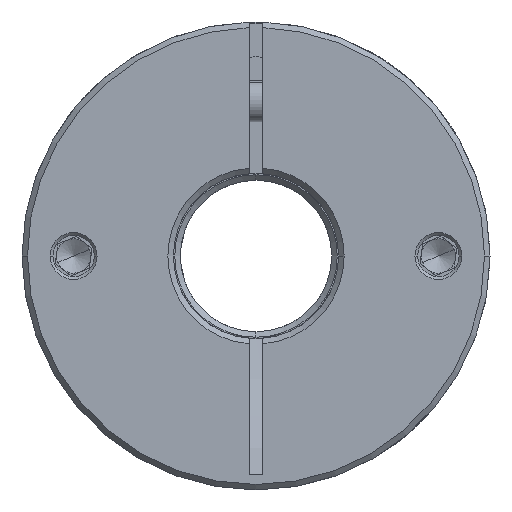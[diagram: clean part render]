
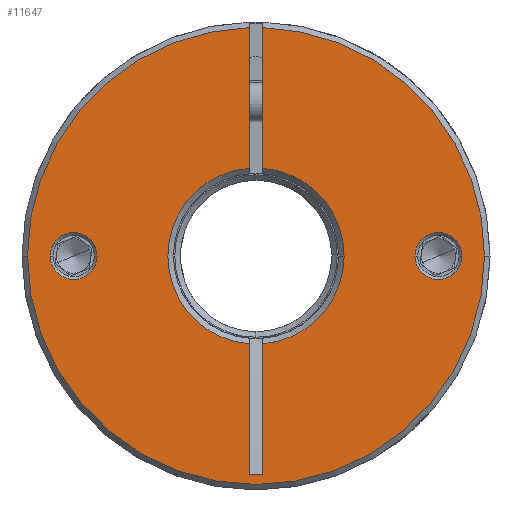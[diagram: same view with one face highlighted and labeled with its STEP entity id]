
A CAD part, front view. The second image highlights one B-rep face of the part: STEP entity #11647.
In plain terms, the highlighted planar face has unit normal (0, -1, 0).
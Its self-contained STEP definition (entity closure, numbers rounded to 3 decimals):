
#53 = CARTESIAN_POINT ( 'NONE',  ( -1.735, -47.045, 80.761 ) ) ;
#57 = LINE ( 'NONE', #12621, #9388 ) ;
#161 = DIRECTION ( 'NONE',  ( 1., 0., 0. ) ) ;
#203 = ORIENTED_EDGE ( 'NONE', *, *, #9129, .T. ) ;
#334 = CIRCLE ( 'NONE', #8691, 33.2 ) ;
#358 = FACE_OUTER_BOUND ( 'NONE', #1648, .T. ) ;
#576 = DIRECTION ( 'NONE',  ( 0., 0., -1. ) ) ;
#598 = AXIS2_PLACEMENT_3D ( 'NONE', #3572, #1592, #8666 ) ;
#612 = CIRCLE ( 'NONE', #12318, 12.8 ) ;
#616 = CARTESIAN_POINT ( 'NONE',  ( 10.065, -47.045, 68. ) ) ;
#645 = CARTESIAN_POINT ( 'NONE',  ( -2.735, -47.045, 68. ) ) ;
#675 = DIRECTION ( 'NONE',  ( 1., 0., 0. ) ) ;
#835 = EDGE_LOOP ( 'NONE', ( #7035, #203 ) ) ;
#865 = DIRECTION ( 'NONE',  ( 1., 0., 0. ) ) ;
#942 = VERTEX_POINT ( 'NONE', #5291 ) ;
#1165 = FACE_BOUND ( 'NONE', #835, .T. ) ;
#1178 = CARTESIAN_POINT ( 'NONE',  ( -3.735, -47.045, 68. ) ) ;
#1340 = EDGE_CURVE ( 'NONE', #9038, #1619, #3388, .T. ) ;
#1421 = ORIENTED_EDGE ( 'NONE', *, *, #11125, .T. ) ;
#1466 = DIRECTION ( 'NONE',  ( 0., 0., -1. ) ) ;
#1467 = EDGE_CURVE ( 'NONE', #4043, #9747, #9198, .T. ) ;
#1525 = CARTESIAN_POINT ( 'NONE',  ( -3.735, -47.045, 36.279 ) ) ;
#1543 = DIRECTION ( 'NONE',  ( 0., 1., 0. ) ) ;
#1592 = DIRECTION ( 'NONE',  ( 0., -1., 0. ) ) ;
#1619 = VERTEX_POINT ( 'NONE', #6955 ) ;
#1642 = VECTOR ( 'NONE', #9706, 1000. ) ;
#1648 = EDGE_LOOP ( 'NONE', ( #9676, #3791, #8401, #2143, #8872, #7193, #3141, #8069, #4151, #13017, #13081 ) ) ;
#1734 = CIRCLE ( 'NONE', #12186, 3.4 ) ;
#1774 = DIRECTION ( 'NONE',  ( 1., 0., 0. ) ) ;
#2072 = VECTOR ( 'NONE', #576, 1000. ) ;
#2085 = DIRECTION ( 'NONE',  ( 0., 0., -1. ) ) ;
#2127 = VERTEX_POINT ( 'NONE', #12161 ) ;
#2143 = ORIENTED_EDGE ( 'NONE', *, *, #8334, .T. ) ;
#2199 = DIRECTION ( 'NONE',  ( 0., 1., 0. ) ) ;
#2383 = EDGE_CURVE ( 'NONE', #5235, #10764, #57, .T. ) ;
#2550 = AXIS2_PLACEMENT_3D ( 'NONE', #8679, #9702, #3382 ) ;
#2579 = DIRECTION ( 'NONE',  ( 0., -1., 0. ) ) ;
#2613 = ORIENTED_EDGE ( 'NONE', *, *, #3800, .T. ) ;
#2631 = LINE ( 'NONE', #9177, #11298 ) ;
#2884 = VERTEX_POINT ( 'NONE', #3553 ) ;
#3141 = ORIENTED_EDGE ( 'NONE', *, *, #6676, .T. ) ;
#3382 = DIRECTION ( 'NONE',  ( 1., 0., 0. ) ) ;
#3383 = CARTESIAN_POINT ( 'NONE',  ( 20.365, -47.045, 68. ) ) ;
#3388 = LINE ( 'NONE', #1178, #2072 ) ;
#3436 = CARTESIAN_POINT ( 'NONE',  ( -29.235, -47.045, 68. ) ) ;
#3553 = CARTESIAN_POINT ( 'NONE',  ( -25.835, -47.045, 68. ) ) ;
#3572 = CARTESIAN_POINT ( 'NONE',  ( -2.735, -47.045, 68. ) ) ;
#3791 = ORIENTED_EDGE ( 'NONE', *, *, #1467, .T. ) ;
#3800 = EDGE_CURVE ( 'NONE', #2127, #10076, #1734, .T. ) ;
#3883 = VECTOR ( 'NONE', #13012, 1000. ) ;
#4043 = VERTEX_POINT ( 'NONE', #10893 ) ;
#4151 = ORIENTED_EDGE ( 'NONE', *, *, #12996, .T. ) ;
#4170 = VERTEX_POINT ( 'NONE', #12033 ) ;
#4435 = CARTESIAN_POINT ( 'NONE',  ( -1.735, -47.045, 101.185 ) ) ;
#4441 = AXIS2_PLACEMENT_3D ( 'NONE', #5984, #12041, #865 ) ;
#4500 = DIRECTION ( 'NONE',  ( 0., 1., 0. ) ) ;
#4704 = CARTESIAN_POINT ( 'NONE',  ( -2.735, -47.045, 68. ) ) ;
#4724 = AXIS2_PLACEMENT_3D ( 'NONE', #4704, #2579, #6690 ) ;
#4804 = VERTEX_POINT ( 'NONE', #8839 ) ;
#4861 = DIRECTION ( 'NONE',  ( 0., 1., 0. ) ) ;
#4862 = EDGE_CURVE ( 'NONE', #9038, #4804, #12933, .T. ) ;
#5235 = VERTEX_POINT ( 'NONE', #4435 ) ;
#5291 = CARTESIAN_POINT ( 'NONE',  ( -1.735, -47.045, 36.279 ) ) ;
#5650 = VERTEX_POINT ( 'NONE', #11476 ) ;
#5706 = CARTESIAN_POINT ( 'NONE',  ( -32.635, -47.045, 68. ) ) ;
#5847 = DIRECTION ( 'NONE',  ( 0., 1., 0. ) ) ;
#5984 = CARTESIAN_POINT ( 'NONE',  ( 23.765, -47.045, 68. ) ) ;
#5996 = CIRCLE ( 'NONE', #4441, 3.4 ) ;
#6345 = VERTEX_POINT ( 'NONE', #616 ) ;
#6448 = DIRECTION ( 'NONE',  ( 0., -1., 0. ) ) ;
#6676 = EDGE_CURVE ( 'NONE', #6345, #5650, #12727, .T. ) ;
#6690 = DIRECTION ( 'NONE',  ( 1., 0., 0. ) ) ;
#6726 = EDGE_LOOP ( 'NONE', ( #2613, #1421 ) ) ;
#6955 = CARTESIAN_POINT ( 'NONE',  ( -3.735, -47.045, 36.279 ) ) ;
#7035 = ORIENTED_EDGE ( 'NONE', *, *, #12609, .T. ) ;
#7153 = EDGE_CURVE ( 'NONE', #9747, #4170, #334, .T. ) ;
#7193 = ORIENTED_EDGE ( 'NONE', *, *, #8704, .T. ) ;
#7439 = DIRECTION ( 'NONE',  ( 1., 0., 0. ) ) ;
#7516 = CARTESIAN_POINT ( 'NONE',  ( 23.765, -47.045, 68. ) ) ;
#7679 = AXIS2_PLACEMENT_3D ( 'NONE', #8907, #1543, #675 ) ;
#7920 = LINE ( 'NONE', #8988, #3883 ) ;
#7923 = VERTEX_POINT ( 'NONE', #5706 ) ;
#8069 = ORIENTED_EDGE ( 'NONE', *, *, #12765, .T. ) ;
#8313 = AXIS2_PLACEMENT_3D ( 'NONE', #13044, #4861, #12050 ) ;
#8334 = EDGE_CURVE ( 'NONE', #4170, #5235, #12988, .T. ) ;
#8401 = ORIENTED_EDGE ( 'NONE', *, *, #7153, .T. ) ;
#8666 = DIRECTION ( 'NONE',  ( 1., 0., 0. ) ) ;
#8679 = CARTESIAN_POINT ( 'NONE',  ( -2.735, -47.045, 68. ) ) ;
#8691 = AXIS2_PLACEMENT_3D ( 'NONE', #10496, #6448, #161 ) ;
#8704 = EDGE_CURVE ( 'NONE', #10764, #6345, #612, .T. ) ;
#8813 = CIRCLE ( 'NONE', #7679, 3.4 ) ;
#8839 = CARTESIAN_POINT ( 'NONE',  ( -3.735, -47.045, 80.761 ) ) ;
#8872 = ORIENTED_EDGE ( 'NONE', *, *, #2383, .T. ) ;
#8907 = CARTESIAN_POINT ( 'NONE',  ( -29.235, -47.045, 68. ) ) ;
#8988 = CARTESIAN_POINT ( 'NONE',  ( -1.735, -47.045, 68. ) ) ;
#9038 = VERTEX_POINT ( 'NONE', #11405 ) ;
#9043 = CIRCLE ( 'NONE', #10209, 3.4 ) ;
#9129 = EDGE_CURVE ( 'NONE', #7923, #2884, #8813, .T. ) ;
#9177 = CARTESIAN_POINT ( 'NONE',  ( -3.735, -47.045, 68. ) ) ;
#9198 = CIRCLE ( 'NONE', #598, 33.2 ) ;
#9388 = VECTOR ( 'NONE', #1466, 1000. ) ;
#9676 = ORIENTED_EDGE ( 'NONE', *, *, #12346, .F. ) ;
#9702 = DIRECTION ( 'NONE',  ( 0., -1., 0. ) ) ;
#9706 = DIRECTION ( 'NONE',  ( -1., 0., 0. ) ) ;
#9747 = VERTEX_POINT ( 'NONE', #9999 ) ;
#9999 = CARTESIAN_POINT ( 'NONE',  ( -35.935, -47.045, 68. ) ) ;
#10076 = VERTEX_POINT ( 'NONE', #3383 ) ;
#10209 = AXIS2_PLACEMENT_3D ( 'NONE', #3436, #4500, #10610 ) ;
#10496 = CARTESIAN_POINT ( 'NONE',  ( -2.735, -47.045, 68. ) ) ;
#10508 = CARTESIAN_POINT ( 'NONE',  ( -2.735, -47.045, 68. ) ) ;
#10610 = DIRECTION ( 'NONE',  ( 1., 0., 0. ) ) ;
#10764 = VERTEX_POINT ( 'NONE', #53 ) ;
#10893 = CARTESIAN_POINT ( 'NONE',  ( -3.735, -47.045, 101.185 ) ) ;
#11125 = EDGE_CURVE ( 'NONE', #10076, #2127, #5996, .T. ) ;
#11298 = VECTOR ( 'NONE', #2085, 1000. ) ;
#11405 = CARTESIAN_POINT ( 'NONE',  ( -3.735, -47.045, 55.239 ) ) ;
#11476 = CARTESIAN_POINT ( 'NONE',  ( -1.735, -47.045, 55.239 ) ) ;
#11626 = FACE_BOUND ( 'NONE', #6726, .T. ) ;
#11647 = ADVANCED_FACE ( 'NONE', ( #11626, #1165, #358 ), #12577, .T. ) ;
#12033 = CARTESIAN_POINT ( 'NONE',  ( 30.465, -47.045, 68. ) ) ;
#12041 = DIRECTION ( 'NONE',  ( 0., 1., 0. ) ) ;
#12050 = DIRECTION ( 'NONE',  ( 1., 0., 0. ) ) ;
#12110 = AXIS2_PLACEMENT_3D ( 'NONE', #10508, #2199, #7439 ) ;
#12161 = CARTESIAN_POINT ( 'NONE',  ( 27.165, -47.045, 68. ) ) ;
#12186 = AXIS2_PLACEMENT_3D ( 'NONE', #7516, #12561, #12610 ) ;
#12241 = LINE ( 'NONE', #1525, #1642 ) ;
#12318 = AXIS2_PLACEMENT_3D ( 'NONE', #645, #5847, #1774 ) ;
#12346 = EDGE_CURVE ( 'NONE', #4043, #4804, #2631, .T. ) ;
#12561 = DIRECTION ( 'NONE',  ( 0., 1., 0. ) ) ;
#12577 = PLANE ( 'NONE',  #2550 ) ;
#12609 = EDGE_CURVE ( 'NONE', #2884, #7923, #9043, .T. ) ;
#12610 = DIRECTION ( 'NONE',  ( 1., 0., 0. ) ) ;
#12621 = CARTESIAN_POINT ( 'NONE',  ( -1.735, -47.045, 68. ) ) ;
#12727 = CIRCLE ( 'NONE', #12110, 12.8 ) ;
#12765 = EDGE_CURVE ( 'NONE', #5650, #942, #7920, .T. ) ;
#12933 = CIRCLE ( 'NONE', #8313, 12.8 ) ;
#12988 = CIRCLE ( 'NONE', #4724, 33.2 ) ;
#12996 = EDGE_CURVE ( 'NONE', #942, #1619, #12241, .T. ) ;
#13012 = DIRECTION ( 'NONE',  ( 0., 0., -1. ) ) ;
#13017 = ORIENTED_EDGE ( 'NONE', *, *, #1340, .F. ) ;
#13044 = CARTESIAN_POINT ( 'NONE',  ( -2.735, -47.045, 68. ) ) ;
#13081 = ORIENTED_EDGE ( 'NONE', *, *, #4862, .T. ) ;
